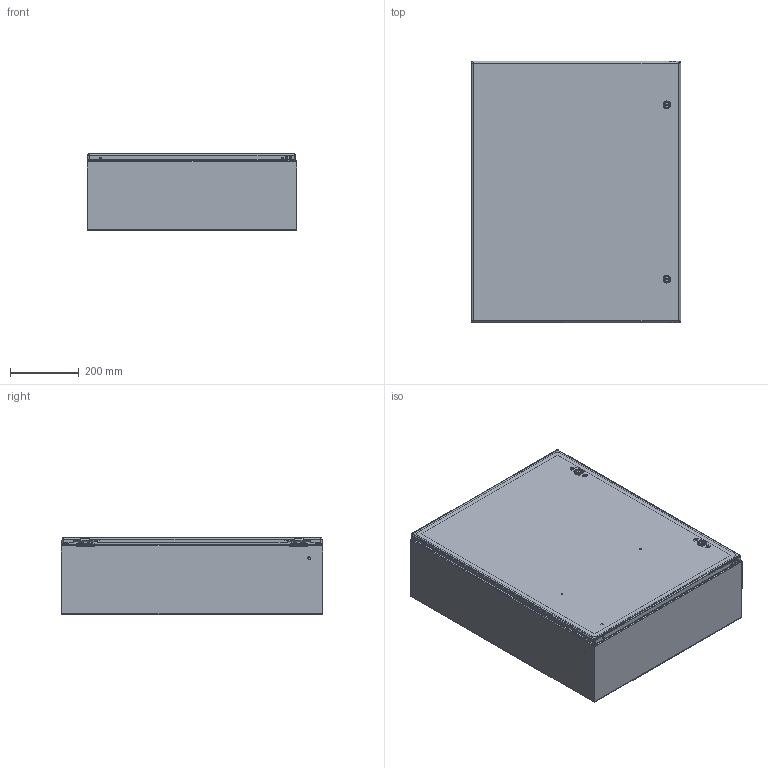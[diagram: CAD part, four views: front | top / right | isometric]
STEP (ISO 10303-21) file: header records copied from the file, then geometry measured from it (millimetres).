
FILE_DESCRIPTION (( 'STEP AP203' ), '1' );
FILE_NAME ('csd30248lg.STEP', '2012-05-21T19:29:12', ( 'User' ), ( 'Pentair Inc' ), 'SwSTEP 2.0', 'SolidWorks 2010', '' );
FILE_SCHEMA (( 'CONFIG_CONTROL_DESIGN' ));
Length unit declared in the file: inch
Products named in the file (27): 87937915; 99401225; 87931362_87931362; 64101001; 64201001; 87541994_Installed Height; 87541995; 64202001; 64210001; 64203001; 87927840_87927840; 87932903; 64138001; 89057565; 87543027; 89076399; 89076193; 89056623; 87929507; 87929767; 87929769_Installed on Pin; csd30248lg; 87950943; 87755761_default; 23271001_After Weld; 87937939_assy; 87937979_weldment
Assembly tree (43 placements, depth 4):
  csd30248lg
    87937939_assy
      64101001  x2
        64203001
        64201001
        64210001
        87541994_Installed Height
        87541995
        64202001
        87927840_87927840
      87932903  x4
      64138001  x2
      89057565
      87937979_weldment
        87931362_87931362  x6
        87937915
        99401225
    89076399  x2
      89056623
      89076193
    87543027  x2
    87929507  x2
      87929767
      87929769_Installed on Pin
    87950943
      99401225
      23271001_After Weld  x4
      87755761_default
Bounding box: 609.6 x 762.3 x 223.9 mm (x, y, z)
Volume: 2669414.6 mm3; surface area: 3351627.7 mm2
Topology: 47 solids, 47 shells, 2331 faces, 5754 edges, 3472 vertices
Faces by surface type: plane 851, cylinder 704, bspline 512, cone 132, torus 124, sphere 8
Entity records: 46673 total; most frequent: CARTESIAN_POINT 16355, ORIENTED_EDGE 5918, DIRECTION 5185, EDGE_CURVE 2959, AXIS2_PLACEMENT_3D 1860, VERTEX_POINT 1814, LINE 1465, VECTOR 1465
